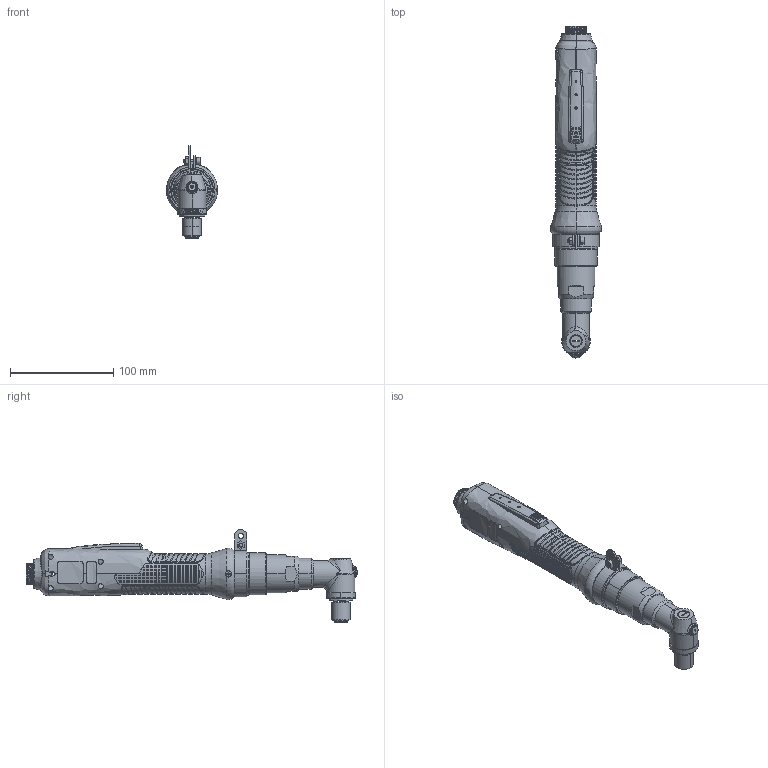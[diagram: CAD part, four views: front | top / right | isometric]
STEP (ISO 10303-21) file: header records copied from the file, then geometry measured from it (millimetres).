
FILE_DESCRIPTION (( 'STEP AP203' ), '1' );
FILE_NAME ('EXT-MDH3204,3208,3211,3216-A.STEP', '2023-02-13T06:04:57', ( '' ), ( '' ), 'SwSTEP 2.0', 'SolidWorks 2021', '' );
FILE_SCHEMA (( 'CONFIG_CONTROL_DESIGN' ));
Products named in the file (1): EXT-MDH3204,3208,3211,3216-A
Bounding box: 49.44 x 322.14 x 90.01 mm (x, y, z)
Surface area: 58338.4 mm2 (no closed solid volume)
Topology: 0 solids, 120 shells, 2072 faces, 7465 edges, 5368 vertices
Faces by surface type: plane 1139, cylinder 498, bspline 338, cone 57, torus 29, sphere 11
Entity records: 108517 total; most frequent: CARTESIAN_POINT 52882, ORIENTED_EDGE 11292, DIRECTION 9068, EDGE_CURVE 7462, VERTEX_POINT 5366, AXIS2_PLACEMENT_3D 3087, B_SPLINE_CURVE_WITH_KNOTS 3076, VECTOR 2894
